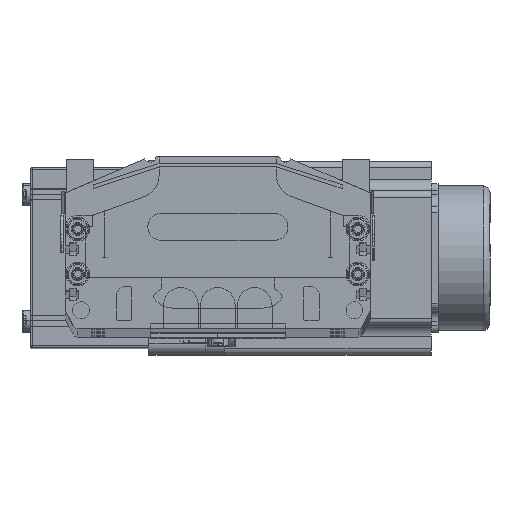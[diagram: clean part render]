
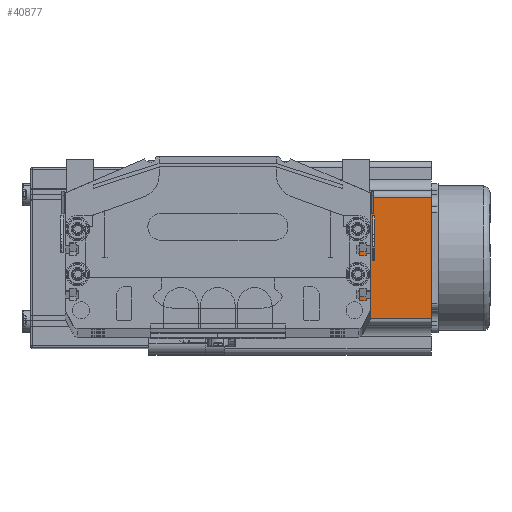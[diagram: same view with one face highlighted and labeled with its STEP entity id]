
A CAD part, top view. The second image highlights one B-rep face of the part: STEP entity #40877.
In plain terms, the highlighted planar face has unit normal (0, 0, 1) as drawn and (-1, 0, 0) by its records, which use the part's own axes.
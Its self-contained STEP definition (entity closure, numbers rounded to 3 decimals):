
#7009 = CARTESIAN_POINT ( 'NONE',  ( 0., 16.16, 0. ) ) ;
#7014 = PLANE ( 'NONE',  #7055 ) ;
#7018 = CARTESIAN_POINT ( 'NONE',  ( 0., 69.74, 0. ) ) ;
#7019 = FACE_OUTER_BOUND ( 'NONE', #40933, .T. ) ;
#7026 = DIRECTION ( 'NONE',  ( 0., 0., 1. ) ) ;
#7027 = VECTOR ( 'NONE', #7026, 1000. ) ;
#7028 = CARTESIAN_POINT ( 'NONE',  ( 0., 16.16, 91.5 ) ) ;
#7029 = LINE ( 'NONE', #7028, #7027 ) ;
#7038 = DIRECTION ( 'NONE',  ( 0., 0., -1. ) ) ;
#7039 = VECTOR ( 'NONE', #7038, 1000. ) ;
#7040 = CARTESIAN_POINT ( 'NONE',  ( 0., 69.74, 91.5 ) ) ;
#7041 = LINE ( 'NONE', #7040, #7039 ) ;
#7052 = DIRECTION ( 'NONE',  ( 0., 0., -1. ) ) ;
#7053 = DIRECTION ( 'NONE',  ( 1., 0., 0. ) ) ;
#7054 = CARTESIAN_POINT ( 'NONE',  ( 0., 0., 91.5 ) ) ;
#7055 = AXIS2_PLACEMENT_3D ( 'NONE', #7054, #7053, #7052 ) ;
#7186 = DIRECTION ( 'NONE',  ( 0., -1., 0. ) ) ;
#7187 = VECTOR ( 'NONE', #7186, 1000. ) ;
#7188 = CARTESIAN_POINT ( 'NONE',  ( 0., 0., 91.5 ) ) ;
#7206 = LINE ( 'NONE', #7226, #7225 ) ;
#7223 = LINE ( 'NONE', #7188, #7187 ) ;
#7224 = DIRECTION ( 'NONE',  ( 0., -1., 0. ) ) ;
#7225 = VECTOR ( 'NONE', #7224, 1000. ) ;
#7226 = CARTESIAN_POINT ( 'NONE',  ( 0., 0., 0. ) ) ;
#7261 = CARTESIAN_POINT ( 'NONE',  ( 0., 69.74, 91.5 ) ) ;
#7378 = CARTESIAN_POINT ( 'NONE',  ( 0., 16.16, 91.5 ) ) ;
#40796 = EDGE_CURVE ( 'NONE', #41025, #40841, #7041, .T. ) ;
#40820 = EDGE_CURVE ( 'NONE', #40839, #41140, #7029, .T. ) ;
#40827 = ORIENTED_EDGE ( 'NONE', *, *, #40796, .T. ) ;
#40839 = VERTEX_POINT ( 'NONE', #7009 ) ;
#40841 = VERTEX_POINT ( 'NONE', #7018 ) ;
#40871 = ORIENTED_EDGE ( 'NONE', *, *, #40964, .T. ) ;
#40876 = ORIENTED_EDGE ( 'NONE', *, *, #40968, .F. ) ;
#40877 = ADVANCED_FACE ( 'NONE', ( #7019 ), #7014, .F. ) ;
#40933 = EDGE_LOOP ( 'NONE', ( #40871, #41135, #40876, #40827 ) ) ;
#40964 = EDGE_CURVE ( 'NONE', #40841, #40839, #7206, .T. ) ;
#40968 = EDGE_CURVE ( 'NONE', #41025, #41140, #7223, .T. ) ;
#41025 = VERTEX_POINT ( 'NONE', #7261 ) ;
#41135 = ORIENTED_EDGE ( 'NONE', *, *, #40820, .T. ) ;
#41140 = VERTEX_POINT ( 'NONE', #7378 ) ;
